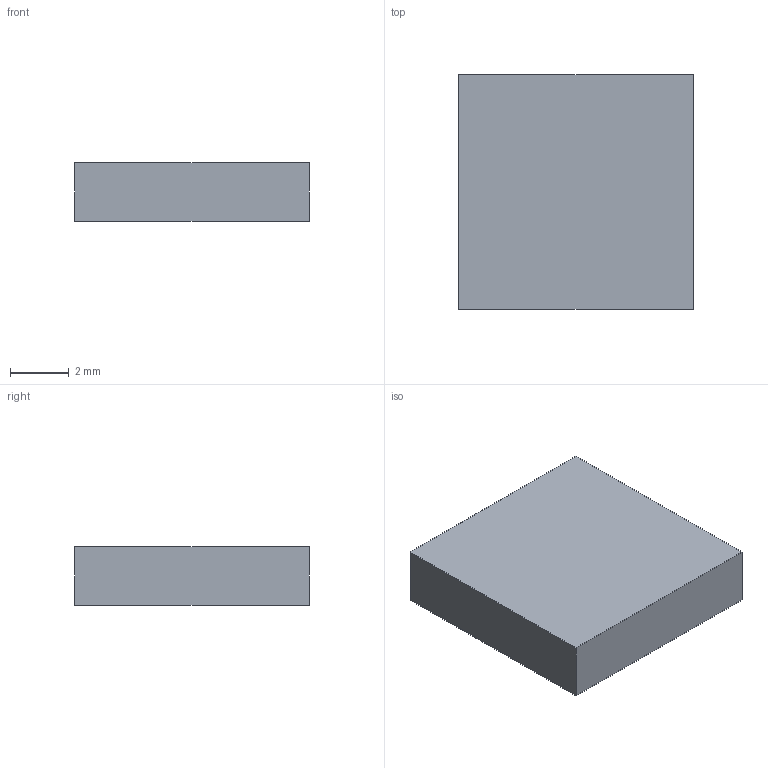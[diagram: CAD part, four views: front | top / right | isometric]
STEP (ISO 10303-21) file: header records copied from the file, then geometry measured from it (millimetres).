
FILE_DESCRIPTION(('Open CASCADE Model'),'2;1');
FILE_NAME('Open CASCADE Shape Model','2026-10-17T17:22:13',('Author'),( 'Open CASCADE'),'Open CASCADE STEP processor 7.9','Open CASCADE 7.9' ,'Unknown');
FILE_SCHEMA(('AUTOMOTIVE_DESIGN { 1 0 10303 214 1 1 1 1 }'));
Length unit declared in the file: millimetre
Products named in the file (1): Open CASCADE STEP translator 7.9 10
Bounding box: 8 x 8 x 2 mm (x, y, z)
Volume: 128 mm3; surface area: 192 mm2
Topology: 1 solids, 1 shells, 6 faces, 12 edges, 8 vertices
Faces by surface type: plane 6
Entity records: 322 total; most frequent: CARTESIAN_POINT 51, DIRECTION 50, LINE 36, VECTOR 36, ORIENTED_EDGE 24, PCURVE 24, DEFINITIONAL_REPRESENTATION 24, EDGE_CURVE 12
